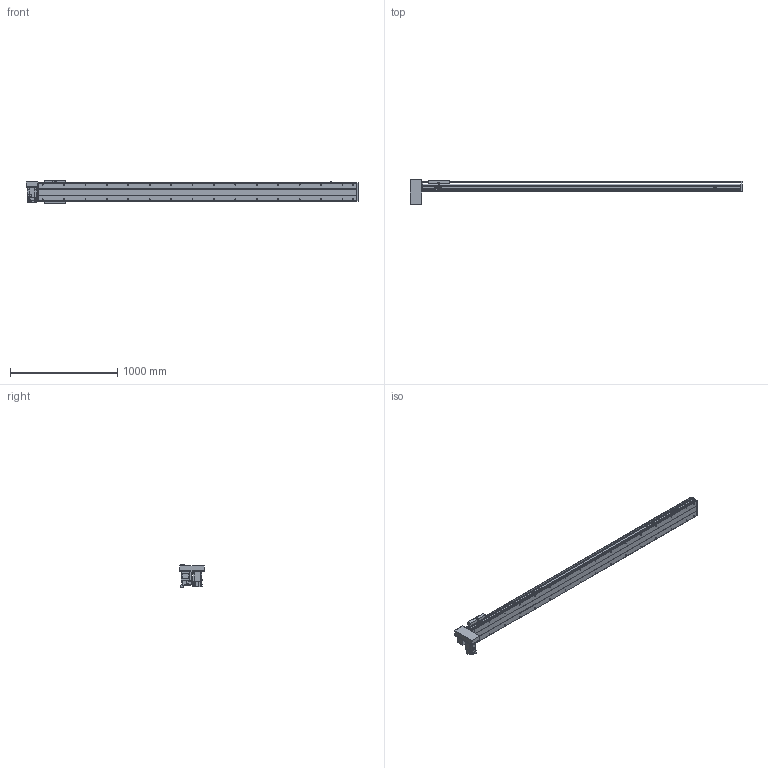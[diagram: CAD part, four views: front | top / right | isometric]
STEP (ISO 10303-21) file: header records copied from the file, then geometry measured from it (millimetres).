
FILE_DESCRIPTION(/* description */ ('STEP AP214'),/* implementation_level */ '2;1');
FILE_NAME(/* name */ 'PBS200-P40-S2600-RD-T75-C1-N(0)',/* time_stamp */ '2022-06-11T09:32:01+02:00',/* author */ ('License CC BY-ND 4.0'),/* organization */ ('CADENAS'),/* preprocessor_version */ 'ST-DEVELOPER v18.102',/* originating_system */ 'PARTsolutions',/* authorisation */ ' ');
FILE_SCHEMA (('AUTOMOTIVE_DESIGN {1 0 10303 214 3 1 1}'));
Length unit declared in the file: millimetre
Products named in the file (7): PBS200-P40-S2600-RD-T75-C1-N(0); PBS200_sensor; PBS200_plant; PBS200_sliser; T75-p1; PBS200T-RD_motors; PBS200-S2600()_body
Assembly tree (8 placements, depth 2):
  PBS200-P40-S2600-RD-T75-C1-N(0)
    PBS200_sensor  x3
    PBS200_plant
    PBS200_sliser
    T75-p1
    PBS200T-RD_motors
    PBS200-S2600()_body
Bounding box: 3100 x 230 x 221 mm (x, y, z)
Volume: 21228229.1 mm3; surface area: 3394880.5 mm2
Topology: 8 solids, 8 shells, 968 faces, 2454 edges, 1596 vertices
Faces by surface type: plane 590, cylinder 314, cone 64
Full cylindrical faces by diameter (mm): 2.459 x6, 3.242 x4, 4.5 x6, 4.917 x4, 5 x6, 6 x7, 6.6 x8, 6.647 x36, 8 x6, 10 x4, 12 x8, 38 x2, 40 x1, 70 x1
Entity records: 25541 total; most frequent: DIRECTION 4519, CARTESIAN_POINT 4336, ORIENTED_EDGE 4078, EDGE_CURVE 2039, AXIS2_PLACEMENT_3D 1603, VERTEX_POINT 1420, LINE 1313, VECTOR 1313
